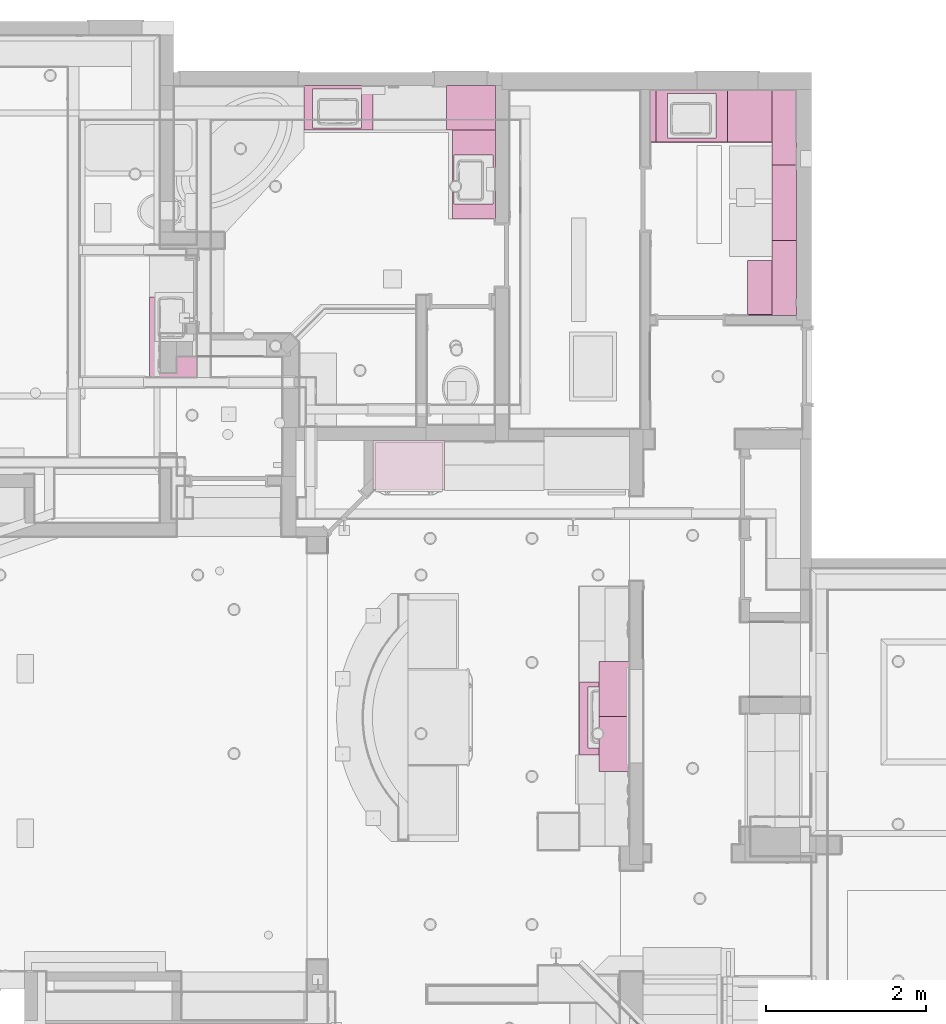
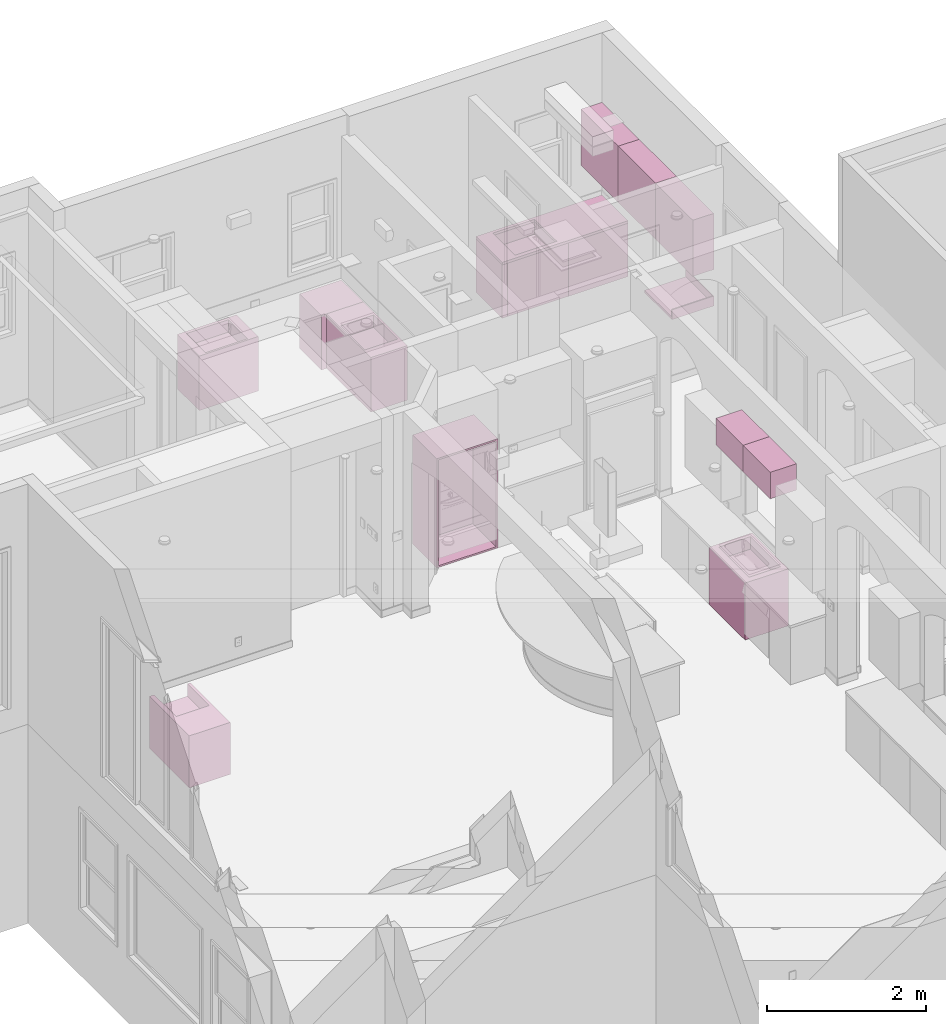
# One storey, part 48 of 60: 16 furnishings.
"""IFC2X3 building model written with IfcOpenShell, lengths in feet."""

from ifc_helpers import new_model, entity, si_unit, converted_unit, direction, frame, origin, origin_2d_with_axis, place, context, subcontext, project, spatial, polyline, rectangle, outline, extrude, faceted_brep, source, transform, mapped, material, type_object, type_shapes, element, save


model = new_model("IFC2X3")

# Units and contexts
model_context = context("Model", 3, precision=0.0001, world=origin(), true_north=direction((6.123031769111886e-17, 1.0)))
plan_context = context("Plan", 3, precision=0.0001, world=origin(), true_north=direction((6.123031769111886e-17, 1.0)))
body_context = subcontext(model_context, "Body", "Model", "MODEL_VIEW")
ifc_project = project(units=[converted_unit("LENGTHUNIT", "FOOT", entity("IfcLengthMeasure", 0.3048), si_unit("LENGTHUNIT", "METRE"), dimensions=[1, 0, 0, 0, 0, 0, 0]), converted_unit("AREAUNIT", "SQUARE FOOT", entity("IfcAreaMeasure", 0.09290304), si_unit("AREAUNIT", "SQUARE_METRE"), dimensions=[2, 0, 0, 0, 0, 0, 0]), converted_unit("PLANEANGLEUNIT", "DEGREE", entity("IfcPlaneAngleMeasure", 0.017453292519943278), si_unit("PLANEANGLEUNIT", "RADIAN"), dimensions=[0, 0, 0, 0, 0, 0, 0])], contexts=[model_context, plan_context])

# Site, building, storey
site_placement = place(None, origin())
site = spatial("IfcSite", under=ifc_project, at=site_placement, Name="Default", CompositionType="ELEMENT")
building_placement = place(site_placement, origin())
building = spatial("IfcBuilding", under=site, at=building_placement, CompositionType="ELEMENT")
storey_placement = place(building_placement, origin())
storey = spatial("IfcBuildingStorey", under=building, at=storey_placement, Name="First floor", CompositionType="ELEMENT", Elevation=0.0)

# Furnishings
ifc_material = material(Name="Default New Material")
furniture_type_1 = type_object("IfcFurnitureType", Name="C_Cabinet Module Double Door:C_Cabinet Module Double Door", AssemblyPlace="NOTDEFINED", material=ifc_material)
shared_shape_1 = source(origin(), body_context, "Body", "SweptSolid", [
    extrude(rectangle(XDim=1.25, YDim=2.25, at=origin_2d_with_axis()), frame((0.0, 0.6249999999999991, 0.0), z_axis=(0.0, 0.0, 1.0), x_axis=(0.0, 1.0, 0.0)), (0.0, 0.0, 1.0), 1.3333333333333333),
])
type_shapes(furniture_type_1, [shared_shape_1])
for number, where, z_axis, x_axis in (
    (1, (12.916666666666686, 22.791321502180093, 17.916666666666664), (0.0, 0.0, 1.0), (0.0, 1.0, 0.0)),
    (2, (12.916666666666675, 20.541321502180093, 17.916666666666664), (0.0, 0.0, 1.0), (0.0, 1.0, 0.0)),
):
    element("IfcFurnishingElement", number, at=place(storey_placement, frame(where, z_axis=z_axis, x_axis=x_axis)), inside=storey, type_object=furniture_type_1, material=ifc_material, Name="C_Cabinet Module Double Door:C_Cabinet Module Double Door", ObjectType="C_Cabinet Module Double Door:C_Cabinet Module Double Door", context=body_context, shape_type="MappedRepresentation", body=[
        mapped(shared_shape_1, transform((0.0, 0.0, 0.0), scale=1.0)),
    ])
furniture_type_2 = type_object("IfcFurnitureType", Name="C_Cabinet Module Double Door:C_Cabinet Module Double Door", AssemblyPlace="NOTDEFINED", material=ifc_material)
shared_shape_2 = source(origin(), body_context, "Body", "Brep", [
    faceted_brep([(12.91666666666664, 23.08298816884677, 2.875), (10.85416666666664, 23.082988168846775, 2.875), (10.854166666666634, 20.088196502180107, 2.875), (12.916666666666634, 20.088196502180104, 2.875), (11.208333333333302, 20.374654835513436, 2.875), (11.208333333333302, 22.87465483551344, 2.875), (12.7083333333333, 22.87465483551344, 2.875), (12.7083333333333, 20.374654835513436, 2.875), (12.91666666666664, 23.08298816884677, 0.0), (12.916666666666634, 20.088196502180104, 0.0), (10.854166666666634, 20.088196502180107, 0.0), (10.85416666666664, 23.082988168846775, 0.0), (11.208333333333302, 20.374654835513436, 2.2499999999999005), (12.708333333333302, 20.374654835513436, 2.2499999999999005), (12.708333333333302, 22.87465483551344, 2.2499999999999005), (11.208333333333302, 22.87465483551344, 2.2499999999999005)], [[[0, 1, 2, 3], [4, 5, 6, 7]], [[8, 9, 10, 11]], [[0, 3, 9, 8]], [[3, 2, 10, 9]], [[2, 1, 11, 10]], [[1, 0, 8, 11]], [[12, 13, 14, 15]], [[12, 15, 5, 4]], [[15, 14, 6, 5]], [[14, 13, 7, 6]], [[13, 12, 4, 7]]]),
])
type_shapes(furniture_type_2, [shared_shape_2])
furnishing_1_placement = place(storey_placement, frame((0.0, 0.0, 10.666666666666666)))
element("IfcFurnishingElement", 3, at=furnishing_1_placement, inside=storey, type_object=furniture_type_2, material=ifc_material, Name="C_Cabinet Module Double Door:C_Cabinet Module Double Door", ObjectType="C_Cabinet Module Double Door:C_Cabinet Module Double Door", context=body_context, shape_type="MappedRepresentation", body=[
    mapped(shared_shape_2, transform((0.0, 0.0, 0.0), scale=1.0)),
])
furniture_type_3 = type_object("IfcFurnitureType", Name="C_Casework Empty:C_Casework Empty", AssemblyPlace="NOTDEFINED", material=ifc_material)
shared_shape_3 = source(origin(), body_context, "Body", "Brep", [
    faceted_brep([(1.458333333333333, 2.0, 0.0), (-1.458333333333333, 2.0, 0.0), (-1.458333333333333, 2.0, 5.505208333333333), (1.458333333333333, 2.0, 5.505208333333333), (-1.3749999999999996, 2.0, 5.421875), (-1.3749999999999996, 2.0, 0.08333333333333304), (1.3749999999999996, 2.0, 0.08333333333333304), (1.3749999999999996, 2.0, 5.421875), (1.458333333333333, 0.0, 5.505208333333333), (1.458333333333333, 0.0, 0.0), (-1.458333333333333, 0.0, 5.505208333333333), (-1.458333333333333, 0.0, 0.0), (1.3749999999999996, 0.08333333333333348, 5.421875), (-1.3749999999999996, 0.08333333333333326, 5.421875), (1.3749999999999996, 0.08333333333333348, 0.08333333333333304), (-1.3749999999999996, 0.08333333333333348, 0.08333333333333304)], [[[0, 1, 2, 3], [4, 5, 6, 7]], [[0, 3, 8, 9]], [[8, 3, 2, 10]], [[10, 2, 1, 11]], [[11, 1, 0, 9]], [[4, 7, 12, 13]], [[7, 6, 14, 12]], [[6, 5, 15, 14]], [[5, 4, 13, 15]], [[8, 10, 11, 9]], [[13, 12, 14, 15]]]),
])
type_shapes(furniture_type_3, [shared_shape_3])
furnishing_2_placement = place(storey_placement, frame((3.874662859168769, 32.95833333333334, 10.666666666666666), z_axis=(0.0, 0.0, 1.0), x_axis=(-1.0, 0.0, 0.0)))
element("IfcFurnishingElement", 4, at=furnishing_2_placement, inside=storey, type_object=furniture_type_3, material=ifc_material, Name="C_Casework Empty:C_Casework Empty", ObjectType="C_Casework Empty:C_Casework Empty", context=body_context, shape_type="MappedRepresentation", body=[
    mapped(shared_shape_3, transform((0.0, 0.0, 0.0), scale=1.0)),
])
furniture_type_4 = type_object("IfcFurnitureType", Name="C_Cabinet Module Double Door:C_Cabinet Module Double Door", AssemblyPlace="NOTDEFINED", material=ifc_material)
shared_shape_4 = source(origin(), body_context, "Body", "Brep", [
    faceted_brep([(-0.41666666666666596, 47.49965483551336, 2.75), (-0.4166666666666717, 45.68715483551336, 2.75), (2.411458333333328, 45.687154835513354, 2.75), (2.411458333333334, 47.499654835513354, 2.75), (1.9368489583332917, 45.77048816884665, 2.75), (-0.0631510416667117, 45.770488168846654, 2.75), (-0.06315104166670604, 47.35382150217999, 2.75), (1.9368489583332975, 47.35382150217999, 2.75), (-0.41666666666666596, 47.49965483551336, 0.0), (2.411458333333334, 47.499654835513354, 0.0), (2.411458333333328, 45.687154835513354, 0.0), (-0.4166666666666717, 45.68715483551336, 0.0), (-0.0631510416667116, 45.770488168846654, 2.124999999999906), (1.936848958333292, 45.77048816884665, 2.124999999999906), (1.9368489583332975, 47.35382150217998, 2.124999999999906), (-0.06315104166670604, 47.35382150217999, 2.124999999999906)], [[[0, 1, 2, 3], [4, 5, 6, 7]], [[8, 9, 10, 11]], [[0, 3, 9, 8]], [[3, 2, 10, 9]], [[2, 1, 11, 10]], [[1, 0, 8, 11]], [[12, 13, 14, 15]], [[13, 12, 5, 4]], [[14, 13, 4, 7]], [[15, 14, 7, 6]], [[12, 15, 6, 5]]]),
])
type_shapes(furniture_type_4, [shared_shape_4])
furnishing_3_placement = place(storey_placement, frame((0.0, 0.0, 10.666666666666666)))
element("IfcFurnishingElement", 5, at=furnishing_3_placement, inside=storey, type_object=furniture_type_4, material=ifc_material, Name="C_Cabinet Module Double Door:C_Cabinet Module Double Door", ObjectType="C_Cabinet Module Double Door:C_Cabinet Module Double Door", context=body_context, shape_type="MappedRepresentation", body=[
    mapped(shared_shape_4, transform((0.0, 0.0, 0.0), scale=1.0)),
])
furniture_type_5 = type_object("IfcFurnitureType", Name="C_Cabinet Single Module:C_Cabinet Single Module", AssemblyPlace="NOTDEFINED", material=ifc_material)
shared_shape_5 = source(origin(), body_context, "Body", "SweptSolid", [
    extrude(rectangle(XDim=2.0052083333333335, YDim=1.8125000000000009, at=origin_2d_with_axis()), frame((0.0, -0.9062499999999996, 0.0), z_axis=(0.0, 0.0, 1.0), x_axis=(-1.0, 0.0, 0.0)), (0.0, 0.0, 1.0), 2.75),
])
type_shapes(furniture_type_5, [shared_shape_5])
furnishing_4_placement = place(storey_placement, frame((6.414062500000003, 47.49965483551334, 10.666666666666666)))
element("IfcFurnishingElement", 6, at=furnishing_4_placement, inside=storey, type_object=furniture_type_5, material=ifc_material, Name="C_Cabinet Single Module:C_Cabinet Single Module", ObjectType="C_Cabinet Single Module:C_Cabinet Single Module", context=body_context, shape_type="MappedRepresentation", body=[
    mapped(shared_shape_5, transform((0.0, 0.0, 0.0), scale=1.0)),
])
furniture_type_6 = type_object("IfcFurnitureType", Name="C_Cabinet Module Double Door:C_Cabinet Module Double Door", AssemblyPlace="NOTDEFINED", material=ifc_material)
shared_shape_6 = source(origin(), body_context, "Body", "Brep", [
    faceted_brep([(7.416666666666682, 45.68715483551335, 2.75), (5.666666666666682, 45.68715483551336, 2.75), (5.666666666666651, 42.041321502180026, 2.75), (7.416666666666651, 42.04132150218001, 2.75), (5.729166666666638, 42.64874337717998, 2.75), (5.729166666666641, 44.648743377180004, 2.75), (7.312499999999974, 44.64874337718, 2.75), (7.312499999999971, 42.64874337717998, 2.75), (7.416666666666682, 45.68715483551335, 0.0), (7.416666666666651, 42.04132150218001, 0.0), (5.666666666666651, 42.041321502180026, 0.0), (5.666666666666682, 45.68715483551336, 0.0), (5.729166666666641, 44.64874337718, 2.1249999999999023), (5.729166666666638, 42.64874337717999, 2.1249999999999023), (7.312499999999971, 42.64874337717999, 2.1249999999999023), (7.312499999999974, 44.64874337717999, 2.1249999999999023)], [[[0, 1, 2, 3], [4, 5, 6, 7]], [[8, 9, 10, 11]], [[0, 3, 9, 8]], [[3, 2, 10, 9]], [[2, 1, 11, 10]], [[1, 0, 8, 11]], [[12, 13, 14, 15]], [[13, 12, 5, 4]], [[14, 13, 4, 7]], [[15, 14, 7, 6]], [[12, 15, 6, 5]]]),
])
type_shapes(furniture_type_6, [shared_shape_6])
furnishing_5_placement = place(storey_placement, frame((0.0, 0.0, 10.666666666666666)))
element("IfcFurnishingElement", 7, at=furnishing_5_placement, inside=storey, type_object=furniture_type_6, material=ifc_material, Name="C_Cabinet Module Double Door:C_Cabinet Module Double Door", ObjectType="C_Cabinet Module Double Door:C_Cabinet Module Double Door", context=body_context, shape_type="MappedRepresentation", body=[
    mapped(shared_shape_6, transform((0.0, 0.0, 0.0), scale=1.0)),
])
furniture_type_7 = type_object("IfcFurnitureType", Name="C_Cabinet Module Double Door:C_Cabinet Module Double Door", AssemblyPlace="NOTDEFINED", material=ifc_material)
shared_shape_7 = source(origin(), body_context, "Body", "SweptSolid", [
    extrude(rectangle(XDim=0.9999999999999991, YDim=3.0833333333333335, at=origin_2d_with_axis()), frame((0.0, 0.49999999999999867, 0.0), z_axis=(0.0, 0.0, 1.0), x_axis=(0.0, 1.0, 0.0)), (0.0, 0.0, 1.0), 2.8333333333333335),
])
type_shapes(furniture_type_7, [shared_shape_7])
for number, where, z_axis, x_axis in (
    (8, (19.749999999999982, 39.62465483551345, 15.333333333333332), (0.0, 0.0, 1.0), (0.0, 1.0, 0.0)),
    (9, (19.74999999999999, 42.70798816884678, 15.333333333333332), (0.0, 0.0, 1.0), (0.0, 1.0, 0.0)),
    (10, (19.750000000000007, 45.79132150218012, 15.333333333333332), (0.0, 0.0, 1.0), (0.0, 1.0, 0.0)),
):
    element("IfcFurnishingElement", number, at=place(storey_placement, frame(where, z_axis=z_axis, x_axis=x_axis)), inside=storey, type_object=furniture_type_7, material=ifc_material, Name="C_Cabinet Module Double Door:C_Cabinet Module Double Door", ObjectType="C_Cabinet Module Double Door:C_Cabinet Module Double Door", context=body_context, shape_type="MappedRepresentation", body=[
        mapped(shared_shape_7, transform((0.0, 0.0, 0.0), scale=1.0)),
    ])
furniture_type_8 = type_object("IfcFurnitureType", Name="C_Counter Top Linear:Counter Top", AssemblyPlace="NOTDEFINED", material=ifc_material)
shared_shape_8 = source(origin(), body_context, "Body", "Brep", [
    faceted_brep([(-3.89685792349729, -2.249999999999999, -13.375), (-1.9385245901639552, -2.249999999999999, -13.375), (-1.9385245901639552, -0.041666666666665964, -13.375), (-3.89685792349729, -0.041666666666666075, -13.375), (-1.9385245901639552, 0.0, -13.5), (-1.9385245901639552, -2.249999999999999, -13.5), (-3.9385245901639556, -2.249999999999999, -13.5), (-3.9385245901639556, 0.0, -13.5), (-3.9385245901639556, 0.0, -13.0), (-1.9385245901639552, 0.0, -13.0), (-3.9385245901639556, -2.249999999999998, -13.0), (-3.89685792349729, -2.249999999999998, -13.0), (-1.9385245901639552, -0.04166666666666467, -13.0), (-3.89685792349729, -0.04166666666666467, -13.0)], [[[0, 1, 2, 3]], [[4, 5, 6, 7]], [[4, 7, 8, 9]], [[8, 7, 6, 10]], [[10, 6, 5, 1, 0, 11]], [[5, 4, 9, 12, 2, 1]], [[9, 8, 10, 11, 13, 12]], [[12, 13, 3, 2]], [[13, 11, 0, 3]]]),
])
type_shapes(furniture_type_8, [shared_shape_8])
furnishing_6_placement = place(storey_placement, frame((15.811475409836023, 38.08298816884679, 27.0), z_axis=(0.0, 0.0, 1.0), x_axis=(-1.0, 0.0, 0.0)))
element("IfcFurnishingElement", 11, at=furnishing_6_placement, inside=storey, type_object=furniture_type_8, material=ifc_material, Name="C_Counter Top Linear:Counter Top", ObjectType="C_Counter Top Linear:Counter Top", context=body_context, shape_type="MappedRepresentation", body=[
    mapped(shared_shape_8, transform((0.0, 0.0, 0.0), scale=1.0)),
])
furniture_type_9 = type_object("IfcFurnitureType", Name="C_Cabinet Single Module:C_Cabinet Single Module", AssemblyPlace="NOTDEFINED", material=ifc_material)
shared_shape_9 = source(origin(), body_context, "Body", "SweptSolid", [
    extrude(rectangle(XDim=0.25, YDim=2.1458333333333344, at=origin_2d_with_axis()), frame((0.0, -1.0729166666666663, 0.0), z_axis=(0.0, 0.0, 1.0), x_axis=(-1.0, 0.0, 0.0)), (0.0, 0.0, 1.0), 2.708333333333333),
])
type_shapes(furniture_type_9, [shared_shape_9])
furnishing_7_placement = place(storey_placement, frame((13.874999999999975, 47.332988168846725, 10.666666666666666)))
element("IfcFurnishingElement", 12, at=furnishing_7_placement, inside=storey, type_object=furniture_type_9, material=ifc_material, Name="C_Cabinet Single Module:C_Cabinet Single Module", ObjectType="C_Cabinet Single Module:C_Cabinet Single Module", context=body_context, shape_type="MappedRepresentation", body=[
    mapped(shared_shape_9, transform((0.0, 0.0, 0.0), scale=1.0)),
])
furniture_type_10 = type_object("IfcFurnitureType", Name="C_Cabinet Module Double Door:C_Cabinet Module Double Door", AssemblyPlace="NOTDEFINED", material=ifc_material)
shared_shape_10 = source(origin(), body_context, "Body", "Brep", [
    faceted_brep([(14.0, 47.33298816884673, 2.708333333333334), (14.0, 45.1871548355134, 2.708333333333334), (16.916666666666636, 45.18715483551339, 2.708333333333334), (16.916666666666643, 47.332988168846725, 2.708333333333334), (16.45833333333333, 45.35382150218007, 2.708333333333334), (14.458333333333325, 45.35382150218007, 2.708333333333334), (14.458333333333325, 47.187154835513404, 2.708333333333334), (16.45833333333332, 47.187154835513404, 2.708333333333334), (14.0, 47.33298816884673, 0.0), (16.916666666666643, 47.332988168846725, 0.0), (16.916666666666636, 45.18715483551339, 0.0), (14.0, 45.1871548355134, 0.0), (16.45833333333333, 45.35382150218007, 2.0833333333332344), (16.45833333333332, 47.187154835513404, 2.0833333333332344), (14.458333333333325, 47.187154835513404, 2.0833333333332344), (14.458333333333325, 45.35382150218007, 2.0833333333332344)], [[[0, 1, 2, 3], [4, 5, 6, 7]], [[8, 9, 10, 11]], [[0, 3, 9, 8]], [[3, 2, 10, 9]], [[2, 1, 11, 10]], [[1, 0, 8, 11]], [[12, 13, 14, 15]], [[12, 15, 5, 4]], [[15, 14, 6, 5]], [[14, 13, 7, 6]], [[13, 12, 4, 7]]]),
])
type_shapes(furniture_type_10, [shared_shape_10])
furnishing_8_placement = place(storey_placement, frame((0.0, 0.0, 10.666666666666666)))
element("IfcFurnishingElement", 13, at=furnishing_8_placement, inside=storey, type_object=furniture_type_10, material=ifc_material, Name="C_Cabinet Module Double Door:C_Cabinet Module Double Door", ObjectType="C_Cabinet Module Double Door:C_Cabinet Module Double Door", context=body_context, shape_type="MappedRepresentation", body=[
    mapped(shared_shape_10, transform((0.0, 0.0, 0.0), scale=1.0)),
])
furniture_type_11 = type_object("IfcFurnitureType", Name="C_Cabinet Single Module:C_Cabinet Single Module", AssemblyPlace="NOTDEFINED", material=ifc_material)
shared_shape_11 = source(origin(), body_context, "Body", "SweptSolid", [
    extrude(rectangle(XDim=2.8333333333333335, YDim=2.1458333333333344, at=origin_2d_with_axis()), frame((0.0, -1.0729166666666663, 0.0), z_axis=(0.0, 0.0, 1.0), x_axis=(-1.0, 0.0, 0.0)), (0.0, 0.0, 1.0), 2.708333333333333),
])
type_shapes(furniture_type_11, [shared_shape_11])
furnishing_9_placement = place(storey_placement, frame((18.333333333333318, 47.332988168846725, 10.666666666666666)))
element("IfcFurnishingElement", 14, at=furnishing_9_placement, inside=storey, type_object=furniture_type_11, material=ifc_material, Name="C_Cabinet Single Module:C_Cabinet Single Module", ObjectType="C_Cabinet Single Module:C_Cabinet Single Module", context=body_context, shape_type="MappedRepresentation", body=[
    mapped(shared_shape_11, transform((0.0, 0.0, 0.0), scale=1.0)),
])
furniture_type_12 = type_object("IfcFurnitureType", Name="C_Cabinet Module Double Door:C_Cabinet Module Double Door", AssemblyPlace="NOTDEFINED", material=ifc_material)
shared_shape_12 = source(origin(), body_context, "Body", "Brep", [
    faceted_brep([(-6.7500000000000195, 38.83333333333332, 2.625), (-6.750000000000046, 35.54166666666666, 2.625), (-4.791666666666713, 35.54166666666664, 2.625), (-4.7916666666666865, 38.83333333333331, 2.625), (-4.937500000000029, 38.83333333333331, 2.625), (-4.9375000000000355, 37.020833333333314, 2.625), (-6.520833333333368, 37.02083333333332, 2.625), (-6.5208333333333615, 38.83333333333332, 2.625), (-4.7916666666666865, 38.83333333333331, 0.0), (-4.791666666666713, 35.54166666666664, 0.0), (-6.750000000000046, 35.54166666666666, 0.0), (-6.7500000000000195, 38.83333333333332, 0.0), (-6.5208333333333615, 38.83333333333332, 2.0), (-4.937500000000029, 38.83333333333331, 2.0), (-6.520833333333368, 37.02083333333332, 2.0), (-4.937500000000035, 37.020833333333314, 2.0)], [[[0, 1, 2, 3, 4, 5, 6, 7]], [[8, 9, 10, 11]], [[3, 2, 9, 8]], [[2, 1, 10, 9]], [[1, 0, 11, 10]], [[8, 11, 0, 7, 12, 13, 4, 3]], [[14, 15, 13, 12]], [[14, 12, 7, 6]], [[15, 14, 6, 5]], [[13, 15, 5, 4]]]),
])
type_shapes(furniture_type_12, [shared_shape_12])
furnishing_10_placement = place(storey_placement, origin())
element("IfcFurnishingElement", 15, at=furnishing_10_placement, inside=storey, type_object=furniture_type_12, material=ifc_material, Name="C_Cabinet Module Double Door:C_Cabinet Module Double Door", ObjectType="C_Cabinet Module Double Door:C_Cabinet Module Double Door", context=body_context, shape_type="MappedRepresentation", body=[
    mapped(shared_shape_12, transform((0.0, 0.0, 0.0), scale=1.0)),
])
furniture_type_13 = type_object("IfcFurnitureType", Name="C_Counter Top Linear (without skirting):C_Counter Top Linear (without skirting)", AssemblyPlace="NOTDEFINED", material=ifc_material)
shared_shape_13 = source(origin(), body_context, "Body", "SweptSolid", [
    extrude(outline(polyline([(-1.083333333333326, -3.0), (1.0833333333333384, -3.0), (1.0833333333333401, 3.0), (-1.0833333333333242, 3.0), (-1.083333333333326, -3.0)]), holes=[polyline([(0.8958333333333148, -2.2916666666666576), (-0.9375000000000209, -2.291666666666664), (-0.9375000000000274, -0.29166666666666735), (0.8958333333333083, -0.29166666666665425), (0.8958333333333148, -2.2916666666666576)])]), frame((16.749999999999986, 46.249654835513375, 0.0), z_axis=(0.0, 0.0, 1.0), x_axis=(0.0, -1.0, 0.0)), (0.0, 0.0, 1.0), 0.125),
])
type_shapes(furniture_type_13, [shared_shape_13])
furnishing_11_placement = place(storey_placement, frame((0.0, 0.0, 13.375)))
element("IfcFurnishingElement", 16, at=furnishing_11_placement, inside=storey, type_object=furniture_type_13, material=ifc_material, Name="C_Counter Top Linear (without skirting):C_Counter Top Linear (without skirting)", ObjectType="C_Counter Top Linear (without skirting):C_Counter Top Linear (without skirting)", context=body_context, shape_type="MappedRepresentation", body=[
    mapped(shared_shape_13, transform((0.0, 0.0, 0.0), scale=1.0)),
])

save(model, "model.ifc")
